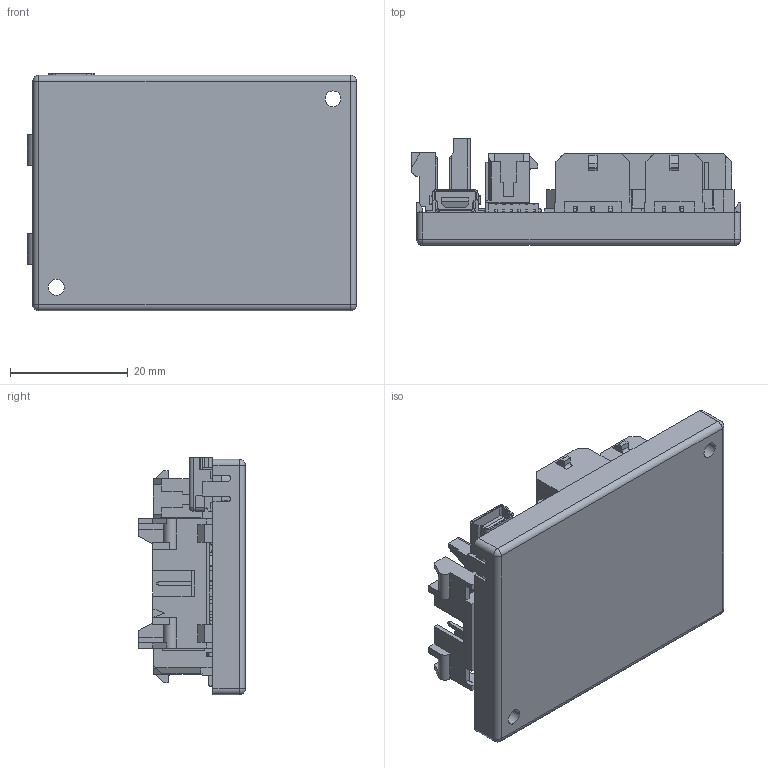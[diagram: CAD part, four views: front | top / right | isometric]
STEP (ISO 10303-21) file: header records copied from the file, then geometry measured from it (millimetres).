
FILE_DESCRIPTION((''),'2;1');
FILE_NAME('390003_EPOS2_24_2_ASM','2012-10-31T',('johannes'),(''),'PRO/ENGINEER BY PARAMETRIC TECHNOLOGY CORPORATION, 2010330','PRO/ENGINEER BY PARAMETRIC TECHNOLOGY CORPORATION, 2010330','');
FILE_SCHEMA(('CONFIG_CONTROL_DESIGN'));
Products named in the file (20): 39003_BOARD_EPOS2_24_2; BOARD_HOLE_PLUG; 338522712; USB_MINI_B; DIP_SWITCH_2P_2; COVER_36_2; OPEN_CASCADE_STEP_STRANSL_36343; OPEN_CASCADE_STEP_TRANSL_70721; OPEN_CASCADE_STEP_TRANSL_84703; OPEN_CASCADE_STEP_TRANSL_165331; TYCO_V23535_2; SILKSCREEN_BASE_4X40; SILKSCREEN_390003_TEXT1; SILKSCREEN_MAXON_LOGO_20X2; SILKSCREEN_390003_ASM; LED_BASE; LED_GREEN; LED_RED; STATUS_INDICATOR_LED_ASM; 390003_EPOS2_24_2_ASM
Assembly tree (23 placements, depth 3):
  390003_EPOS2_24_2_ASM
    39003_BOARD_EPOS2_24_2
    BOARD_HOLE_PLUG  x2
    338522712  x3
    USB_MINI_B
    DIP_SWITCH_2P_2
    COVER_36_2
    OPEN_CASCADE_STEP_STRANSL_36343
    OPEN_CASCADE_STEP_TRANSL_70721
    OPEN_CASCADE_STEP_TRANSL_84703
    OPEN_CASCADE_STEP_TRANSL_165331
    TYCO_V23535_2
    SILKSCREEN_390003_ASM
      SILKSCREEN_BASE_4X40
      SILKSCREEN_390003_TEXT1
      SILKSCREEN_MAXON_LOGO_20X2
    STATUS_INDICATOR_LED_ASM
      LED_BASE  x2
      LED_GREEN
      LED_RED
Bounding box: 55.9 x 18.1 x 40.43 mm (x, y, z)
Volume: 11056.3 mm3; surface area: 21085.1 mm2
Topology: 49 solids, 49 shells, 4652 faces, 12851 edges, 8432 vertices
Faces by surface type: plane 4351, cylinder 253, cone 26, sphere 18, torus 4
Entity records: 140883 total; most frequent: CARTESIAN_POINT 25143, ORIENTED_EDGE 24822, DIRECTION 21959, EDGE_CURVE 12411, VECTOR 11939, LINE 11939, VERTEX_POINT 8150, AXIS2_PLACEMENT_3D 5010
